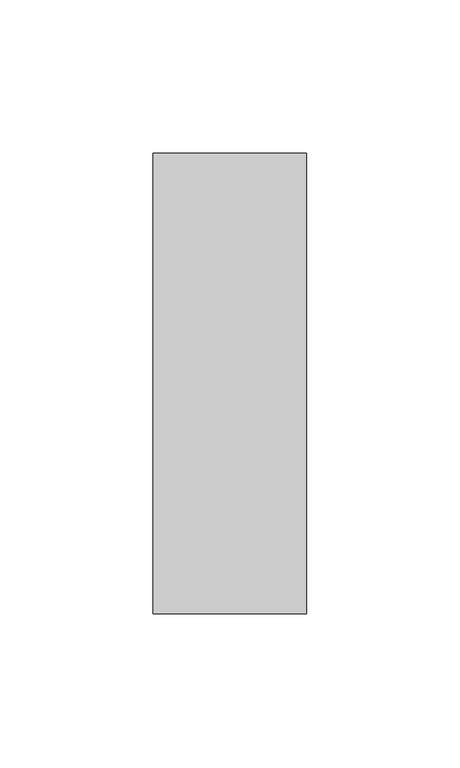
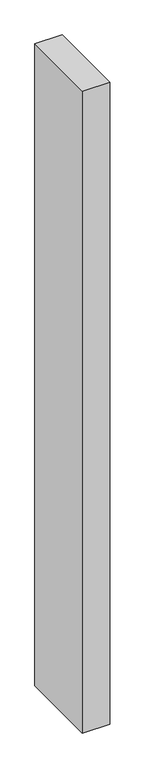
"""IFC4 building model written with IfcOpenShell, lengths in millimetres: member geometry, Прямоугольный импост : 50 x 150 мм."""

import ifcopenshell
import ifcopenshell.guid

model = None  # the IFC model being written
_history = None  # IfcOwnerHistory: only IFC2X3 demands one
_inside = {}  # id of a spatial element -> (the spatial element, [elements in it])
_under = {}  # id of a project, library or spatial element -> (it, [spatial elements below it])
_declared = {}  # id of a project -> (the project, [libraries it declares])
_typed = {}  # id of a type object -> (the type object, [elements of that type])
_made_of = {}  # id of a material, layer set ... -> (it, [elements and type objects made of it])


def new_model(schema):
    """Start an empty IFC model of exactly this schema.

    Asked for "IFC4X3", IfcOpenShell would pick the latest addendum, in which some entities
    have other attributes; the version numbers below select the first issue.
    IFC2X3 requires an IfcOwnerHistory on every rooted entity: one is made here for all.
    """
    global model, _history
    if schema == "IFC4X3":
        model = ifcopenshell.file(schema_version=(4, 3, 0, 0))
    else:
        model = ifcopenshell.file(schema=schema)
    _inside.clear()
    _under.clear()
    _declared.clear()
    _typed.clear()
    _made_of.clear()
    _history = None
    if model.schema == "IFC2X3":
        org = make("IfcOrganization", Name="unknown")
        user = make(
            "IfcPersonAndOrganization",
            ThePerson=make("IfcPerson", FamilyName="unknown"),
            TheOrganization=org,
        )
        app = make(
            "IfcApplication",
            ApplicationDeveloper=org,
            Version="unknown",
            ApplicationFullName="unknown",
            ApplicationIdentifier="unknown",
        )
        _history = make(
            "IfcOwnerHistory",
            OwningUser=user,
            OwningApplication=app,
            ChangeAction="ADDED",
            CreationDate=0,
        )
    return model


def make(cls, **values):
    """One entity of the class cls with the attributes given. An attribute that is None is left unset."""
    return model.create_entity(
        cls, **{name: value for name, value in values.items() if value is not None}
    )


def rooted(cls, **values):
    """An entity with a GlobalId (a new one), such as an element, a storey or a relation."""
    return make(cls, GlobalId=ifcopenshell.guid.new(), OwnerHistory=_history, **values)


def si_unit(unit_type, name, prefix=None):
    """IfcSIUnit, for example si_unit("LENGTHUNIT", "METRE", prefix="MILLI")."""
    return make("IfcSIUnit", UnitType=unit_type, Prefix=prefix, Name=name)


def assignment(units):
    """IfcUnitAssignment: the units of a project."""
    return None if units is None else make("IfcUnitAssignment", Units=units)


def point(xyz):
    """IfcCartesianPoint."""
    return None if xyz is None else make("IfcCartesianPoint", Coordinates=xyz)


def direction(xyz):
    """IfcDirection."""
    return None if xyz is None else make("IfcDirection", DirectionRatios=xyz)


def frame(location, z_axis=None, x_axis=None):
    """IfcAxis2Placement3D, a coordinate frame: its origin and axes. An axis left out is left unset."""
    return make(
        "IfcAxis2Placement3D",
        Location=point(location),
        Axis=direction(z_axis),
        RefDirection=direction(x_axis),
    )


def origin():
    """The frame at (0, 0, 0) with its axes left unset."""
    return frame((0.0, 0.0, 0.0))


def place(relative_to, where):
    """IfcLocalPlacement: puts the frame where relative to a parent placement (None: the world)."""
    return make(
        "IfcLocalPlacement", PlacementRelTo=relative_to, RelativePlacement=where
    )


def context(
    kind, dimensions, precision=None, world=None, true_north=None, identifier=None
):
    """IfcGeometricRepresentationContext, for example the 3D "Model" context."""
    return make(
        "IfcGeometricRepresentationContext",
        ContextIdentifier=identifier,
        ContextType=kind,
        CoordinateSpaceDimension=dimensions,
        Precision=precision,
        WorldCoordinateSystem=world,
        TrueNorth=true_north,
    )


def project(units=None, contexts=None):
    """IfcProject with its units and contexts."""
    return rooted(
        "IfcProject",
        Name="project",
        RepresentationContexts=contexts,
        UnitsInContext=assignment(units),
    )


def spatial(cls, under=None, at=None, **own):
    """A site, building, storey or space (cls), placed at a placement, below another one or the project."""
    s = rooted(cls, ObjectPlacement=at, **own)
    if under is not None:
        _under.setdefault(under.id(), (under, []))[1].append(s)
    return s


def polyline(points):
    """IfcPolyline through the points."""
    return make("IfcPolyline", Points=[point(p) for p in points])


def outline(outer, holes=None, kind="AREA"):
    """IfcArbitraryClosedProfileDef: a profile drawn as a closed curve; with holes, ...WithVoids."""
    if holes is None:
        return make("IfcArbitraryClosedProfileDef", ProfileType=kind, OuterCurve=outer)
    return make(
        "IfcArbitraryProfileDefWithVoids",
        ProfileType=kind,
        OuterCurve=outer,
        InnerCurves=holes,
    )


def extrude(swept, where, along, depth):
    """IfcExtrudedAreaSolid: the profile swept, set in the frame where, extruded along a direction by depth."""
    return make(
        "IfcExtrudedAreaSolid",
        SweptArea=swept,
        Position=where,
        ExtrudedDirection=direction(along),
        Depth=depth,
    )


def shape(context_of_items, identifier, shape_type, items):
    """IfcShapeRepresentation: the items that make up one representation, for example the "Body"."""
    return make(
        "IfcShapeRepresentation",
        ContextOfItems=context_of_items,
        RepresentationIdentifier=identifier,
        RepresentationType=shape_type,
        Items=items,
    )


def source(mapping_origin, context_of_items, identifier, shape_type, items):
    """IfcRepresentationMap: a shape defined once, which mapped items show again and again."""
    return make(
        "IfcRepresentationMap",
        MappingOrigin=mapping_origin,
        MappedRepresentation=shape(context_of_items, identifier, shape_type, items),
    )


def transform(
    local_origin,
    x_axis=None,
    y_axis=None,
    z_axis=None,
    scale=None,
    scale2=None,
    scale3=None,
    uniform=True,
):
    """IfcCartesianTransformationOperator3D, or its non-uniform kind. x_axis, y_axis, z_axis: its Axis1, 2, 3."""
    if uniform:
        return make(
            "IfcCartesianTransformationOperator3D",
            Axis1=direction(x_axis),
            Axis2=direction(y_axis),
            LocalOrigin=point(local_origin),
            Scale=scale,
            Axis3=direction(z_axis),
        )
    return make(
        "IfcCartesianTransformationOperator3DnonUniform",
        Axis1=direction(x_axis),
        Axis2=direction(y_axis),
        LocalOrigin=point(local_origin),
        Scale=scale,
        Axis3=direction(z_axis),
        Scale2=scale2,
        Scale3=scale3,
    )


def mapped(mapping_source, mapping_target):
    """IfcMappedItem: shows the shape of a source again, moved by a transform."""
    return make(
        "IfcMappedItem", MappingSource=mapping_source, MappingTarget=mapping_target
    )


def made_of(thing, what):
    """Note that an element or type object is made of a material, layer set ...; save() writes the relation."""
    if what is not None:
        _made_of.setdefault(what.id(), (what, []))[1].append(thing)
    return thing


def element(
    cls,
    number,
    at=None,
    inside=None,
    cuts=None,
    type_object=None,
    material=None,
    context=None,
    identifier="Body",
    shape_type=None,
    held_by="IfcProductDefinitionShape",
    body=None,
    shapes=None,
    **own,
):
    """One element of the class cls, such as IfcWall. Its Tag is "e" and its number.

    at: its placement. inside: the storey or other place that contains it. cuts: it is an
    opening in that element (IfcRelVoidsElement). A single representation is given by context,
    identifier, shape_type and body (its items); several are given by shapes. held_by: the class
    of the entity that holds the representations. save() writes the other relations.
    """
    e = rooted(cls, Tag="e%d" % number, ObjectPlacement=at, **own)
    if body is not None:
        shapes = [shape(context, identifier, shape_type, body)]
    if shapes is not None:
        e.Representation = make(held_by, Representations=shapes)
    if inside is not None:
        _inside.setdefault(inside.id(), (inside, []))[1].append(e)
    if cuts is not None:
        rooted(
            "IfcRelVoidsElement", RelatingBuildingElement=cuts, RelatedOpeningElement=e
        )
    if type_object is not None:
        _typed.setdefault(type_object.id(), (type_object, []))[1].append(e)
    return made_of(e, material)


def aggregate(whole, parts):
    """IfcRelAggregates: a whole, such as a stair, and the parts it consists of."""
    return rooted("IfcRelAggregates", RelatingObject=whole, RelatedObjects=parts)


def save(model, path):
    """Write the relations noted so far, then the file.

    IfcRelAggregates (storeys below a building ...), IfcRelContainedInSpatialStructure (elements
    in a storey), IfcRelDefinesByType, IfcRelAssociatesMaterial and IfcRelDeclares: one each for
    every whole, place, type object, material and project.
    """
    for whole, parts in _under.values():
        aggregate(whole, parts)
    for where, things in _inside.values():
        rooted(
            "IfcRelContainedInSpatialStructure",
            RelatedElements=things,
            RelatingStructure=where,
        )
    for kind, things in _typed.values():
        rooted("IfcRelDefinesByType", RelatedObjects=things, RelatingType=kind)
    for what, things in _made_of.values():
        rooted("IfcRelAssociatesMaterial", RelatedObjects=things, RelatingMaterial=what)
    for by, libraries in _declared.values():
        rooted("IfcRelDeclares", RelatingContext=by, RelatedDefinitions=libraries)
    model.write(path)


def member_a54bc15c(model_context):
    return source(origin(), model_context, "Body", "SweptSolid", [
        extrude(outline(polyline([(25.0, 75.0), (25.0, -75.0), (-25.0, -75.0), (-25.0, 75.0), (25.0, 75.0)])), frame((0.0, 0.0, -1239.2532252), z_axis=(0.0, 0.0, 1.0), x_axis=(1.0, 0.0, 0.0)), (0.0, 0.0, 1.0), 1239.2532252),
    ])


if __name__ == "__main__":
    model = new_model("IFC4")
    model_context = context("Model", 3, world=origin())
    ifc_project = project(units=[si_unit("LENGTHUNIT", "METRE", prefix="MILLI")], contexts=[model_context])
    site = spatial("IfcSite", under=ifc_project)
    building = spatial("IfcBuilding", under=site)
    placement = place(None, origin())
    member_shape = member_a54bc15c(model_context)
    element("IfcMember", 1, ObjectType="Прямоугольный импост : 50 x 150 мм", at=placement, inside=building, context=model_context, shape_type="MappedRepresentation", body=[
        mapped(member_shape, transform((0.0, 0.0, 0.0), x_axis=(1.0, 0.0, 0.0), y_axis=(0.0, 1.0, 0.0), z_axis=(0.0, 0.0, 1.0))),
    ])
    save(model, "model.ifc")
